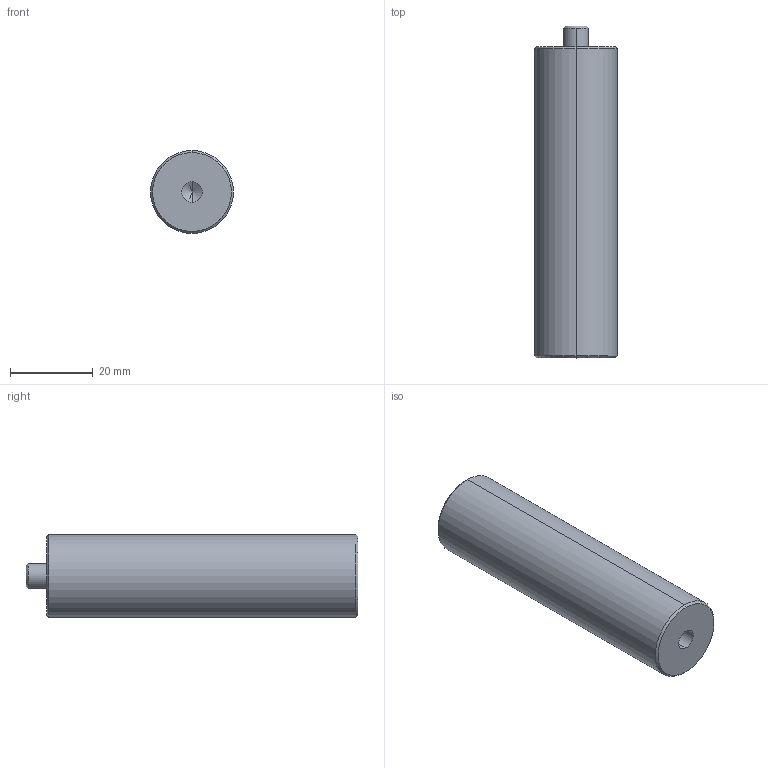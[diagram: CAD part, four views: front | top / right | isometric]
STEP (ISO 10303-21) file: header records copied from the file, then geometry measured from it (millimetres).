
FILE_DESCRIPTION (( 'STEP AP203' ), '1' );
FILE_NAME ('(STEP)M-PDJ20-75.STEP', '2020-04-01T09:29:06', ( '' ), ( '' ), 'SwSTEP 2.0', 'SolidWorks 2019', '' );
FILE_SCHEMA (( 'CONFIG_CONTROL_DESIGN' ));
Length unit declared in the file: millimetre
Products named in the file (1): (STEP)M-PDJ20-75
Bounding box: 20 x 80 x 20 mm (x, y, z)
Volume: 23459.8 mm3; surface area: 5567.7 mm2
Topology: 1 solids, 1 shells, 17 faces, 34 edges, 19 vertices
Faces by surface type: cone 8, cylinder 6, plane 3
Entity records: 505 total; most frequent: DIRECTION 86, CARTESIAN_POINT 69, ORIENTED_EDGE 64, AXIS2_PLACEMENT_3D 36, EDGE_CURVE 32, EDGE_LOOP 19, VERTEX_POINT 19, CIRCLE 18
